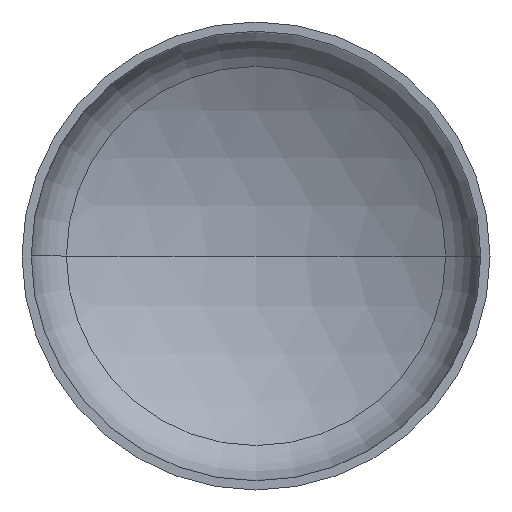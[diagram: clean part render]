
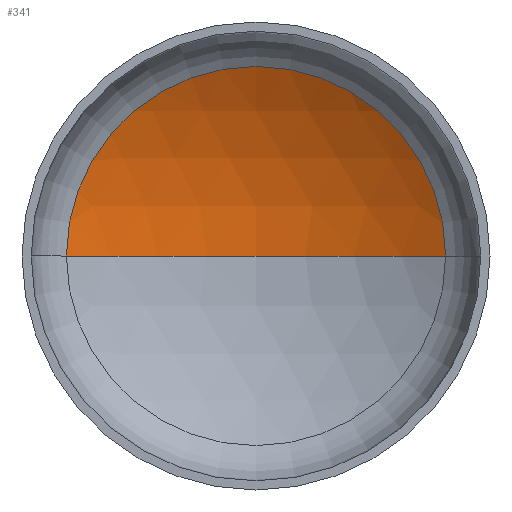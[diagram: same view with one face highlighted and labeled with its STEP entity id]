
A CAD part, front view. The second image highlights one B-rep face of the part: STEP entity #341.
In plain terms, the highlighted spherical face has radius 325 mm.
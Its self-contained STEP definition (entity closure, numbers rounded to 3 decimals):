
#3 = AXIS2_PLACEMENT_3D ( 'NONE', #214, #14, #158 ) ;
#6 = AXIS2_PLACEMENT_3D ( 'NONE', #133, #396, #184 ) ;
#14 = DIRECTION ( 'NONE',  ( 0., 0., 1. ) ) ;
#16 = EDGE_LOOP ( 'NONE', ( #116, #79, #69 ) ) ;
#36 = VERTEX_POINT ( 'NONE', #253 ) ;
#51 = AXIS2_PLACEMENT_3D ( 'NONE', #256, #254, #273 ) ;
#59 = AXIS2_PLACEMENT_3D ( 'NONE', #213, #227, #224 ) ;
#69 = ORIENTED_EDGE ( 'NONE', *, *, #159, .T. ) ;
#79 = ORIENTED_EDGE ( 'NONE', *, *, #160, .T. ) ;
#80 = VERTEX_POINT ( 'NONE', #250 ) ;
#95 = VERTEX_POINT ( 'NONE', #241 ) ;
#113 = CIRCLE ( 'NONE', #51, 325. ) ;
#116 = ORIENTED_EDGE ( 'NONE', *, *, #348, .F. ) ;
#133 = CARTESIAN_POINT ( 'NONE',  ( 0., -201.775, 0. ) ) ;
#158 = DIRECTION ( 'NONE',  ( 1., 0., 0. ) ) ;
#159 = EDGE_CURVE ( 'NONE', #95, #36, #205, .T. ) ;
#160 = EDGE_CURVE ( 'NONE', #80, #95, #113, .T. ) ;
#173 = SPHERICAL_SURFACE ( 'NONE', #6, 325. ) ;
#184 = DIRECTION ( 'NONE',  ( -1., 0., 0. ) ) ;
#205 = CIRCLE ( 'NONE', #59, 164.601 ) ;
#213 = CARTESIAN_POINT ( 'NONE',  ( 0., 78.46, 0. ) ) ;
#214 = CARTESIAN_POINT ( 'NONE',  ( 0., -201.775, 0. ) ) ;
#224 = DIRECTION ( 'NONE',  ( 1., 0., 0. ) ) ;
#227 = DIRECTION ( 'NONE',  ( 0., -1., 0. ) ) ;
#241 = CARTESIAN_POINT ( 'NONE',  ( 164.601, 78.46, 0. ) ) ;
#250 = CARTESIAN_POINT ( 'NONE',  ( 0., 123.225, 0. ) ) ;
#253 = CARTESIAN_POINT ( 'NONE',  ( -164.601, 78.46, 0. ) ) ;
#254 = DIRECTION ( 'NONE',  ( 0., 0., -1. ) ) ;
#256 = CARTESIAN_POINT ( 'NONE',  ( 0., -201.775, 0. ) ) ;
#273 = DIRECTION ( 'NONE',  ( -1., 0., 0. ) ) ;
#289 = FACE_OUTER_BOUND ( 'NONE', #16, .T. ) ;
#341 = ADVANCED_FACE ( 'NONE', ( #289 ), #173, .F. ) ;
#348 = EDGE_CURVE ( 'NONE', #80, #36, #360, .T. ) ;
#360 = CIRCLE ( 'NONE', #3, 325. ) ;
#396 = DIRECTION ( 'NONE',  ( 0., 0., -1. ) ) ;
